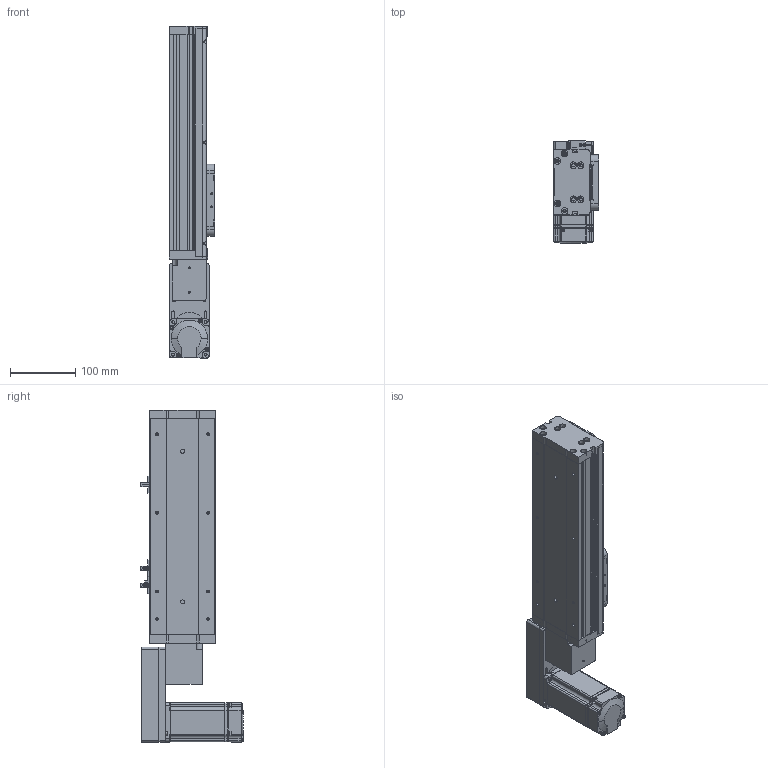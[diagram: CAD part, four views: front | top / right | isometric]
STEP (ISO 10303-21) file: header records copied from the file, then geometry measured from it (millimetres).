
FILE_DESCRIPTION (( 'STEP AP214' ), '1' );
FILE_NAME ('KSD100B-S150-MLB-CR.STEP', '2019-11-12T08:19:57', ( '微软用户' ), ( '微软中国' ), 'SwSTEP 2.0', 'SolidWorks 2014', '' );
FILE_SCHEMA (( 'AUTOMOTIVE_DESIGN' ));
Length unit declared in the file: millimetre
Products named in the file (14): MHMD042G1CA_2_03; 悵誘欶奻狟殏; 100宽马达安装板连板上下折丝杆同步带; 感应片100宽全封闭; U倰嫖萇EEㄜSX672; 100宽马达安装板同步带左; 100遵鎮湛假蚾啣蜊; 100宽端板同步带全封闭; 100宽滚珠螺姆安装板1防护罩; 100宽滚珠螺姆安装板1; 100遵裔啣揤啣; 100宽侧板150行程同步带; 100宽底板全封闭150行程同步带; KSD100B-S150-MLB-CR
Assembly tree (17 placements, depth 2):
  KSD100B-S150-MLB-CR
    100宽底板全封闭150行程同步带
    100宽侧板150行程同步带  x2
    100遵裔啣揤啣  x2
    100宽滚珠螺姆安装板1
    100宽滚珠螺姆安装板1防护罩
    100宽端板同步带全封闭
    100遵鎮湛假蚾啣蜊
    100宽马达安装板同步带左
    U倰嫖萇EEㄜSX672  x3
    感应片100宽全封闭
    100宽马达安装板连板上下折丝杆同步带
    悵誘欶奻狟殏
    MHMD042G1CA_2_03
Bounding box: 70 x 156.2 x 507 mm (x, y, z)
Volume: 985605.8 mm3; surface area: 436940.4 mm2
Topology: 16 solids, 17 shells, 1573 faces, 4378 edges, 2845 vertices
Faces by surface type: plane 719, cylinder 683, cone 151, bspline 20
Entity records: 55314 total; most frequent: CARTESIAN_POINT 8325, DIRECTION 7560, ORIENTED_EDGE 7028, EDGE_CURVE 3586, AXIS2_PLACEMENT_3D 2694, VERTEX_POINT 2383, VECTOR 2172, LINE 2172
